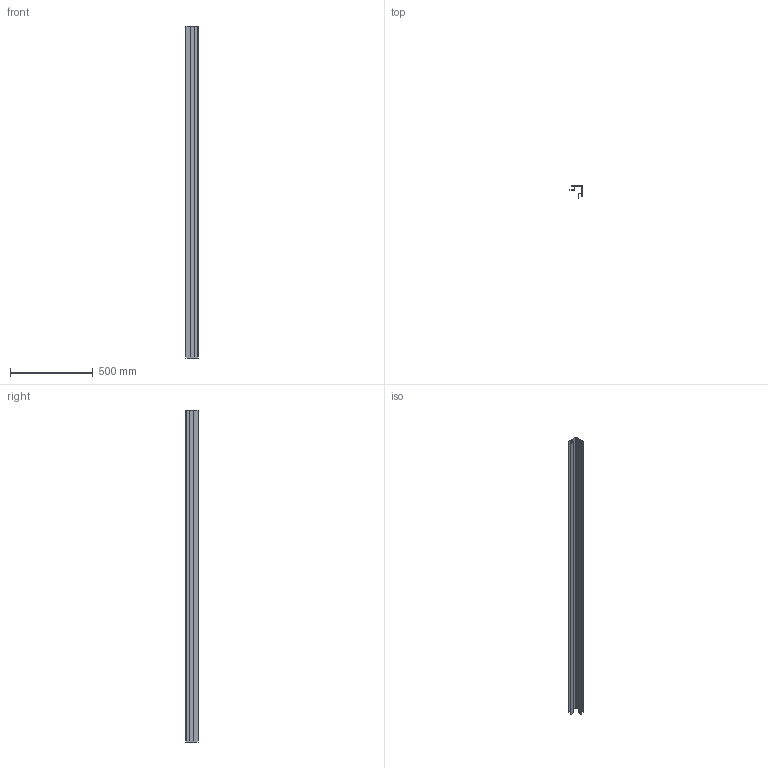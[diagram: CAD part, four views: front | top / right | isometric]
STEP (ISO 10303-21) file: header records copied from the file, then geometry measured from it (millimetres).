
FILE_DESCRIPTION (( 'STEP AP203' ), '1' );
FILE_NAME ('M21E.STEP', '2018-06-19T01:17:01', ( 'Michael Moliner' ), ( '' ), 'SwSTEP 2.0', 'SolidWorks 2018', '' );
FILE_SCHEMA (( 'CONFIG_CONTROL_DESIGN' ));
Length unit declared in the file: inch
Products named in the file (2): M21E
Bounding box: 73.03 x 73.03 x 2000 mm (x, y, z)
Volume: 267201.3 mm3; surface area: 1054272.8 mm2
Topology: 1 solids, 1 shells, 36 faces, 102 edges, 68 vertices
Faces by surface type: plane 20, cylinder 16
Entity records: 1335 total; most frequent: DIRECTION 210, CARTESIAN_POINT 208, ORIENTED_EDGE 204, EDGE_CURVE 102, LINE 70, AXIS2_PLACEMENT_3D 70, VECTOR 70, VERTEX_POINT 68
